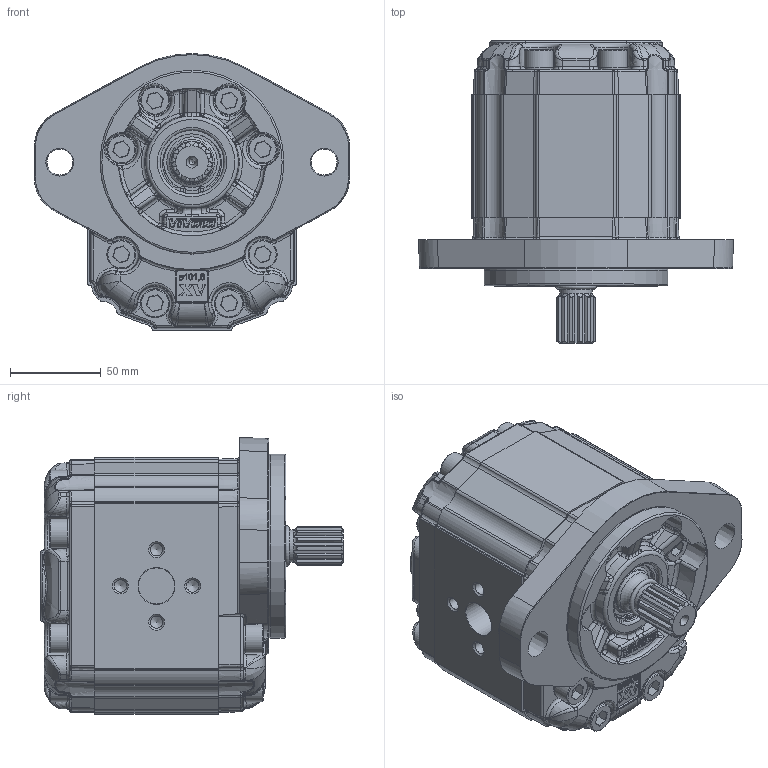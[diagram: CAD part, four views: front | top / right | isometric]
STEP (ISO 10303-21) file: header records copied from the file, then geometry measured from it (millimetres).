
FILE_DESCRIPTION(/* description */ ('Unknown'),/* implementation_level */ '2;1');
FILE_NAME(/* name */ 'X3P6831IAAA',/* time_stamp */ '2021-03-29T11:40:19+02:00',/* author */ ('Unknown'),/* organization */ ('Unknown'),/* preprocessor_version */ 'ST-DEVELOPER v16.7',/* originating_system */ 'Solid Edge',/* authorisation */ 'Unknown');
FILE_SCHEMA (('AUTOMOTIVE_DESIGN {1 0 10303 214 3 1 1}'));
Products named in the file (5): X3P6831IAAA; X3P31; 3I; X3AAH68; XP331-A
Assembly tree (4 placements, depth 2):
  X3P6831IAAA
    X3P31
    3I
    X3AAH68
    XP331-A
Bounding box: 174 x 167.2 x 153 mm (x, y, z)
Volume: 1815562.3 mm3; surface area: 197969.9 mm2
Topology: 4 solids, 21 shells, 3062 faces, 7898 edges, 4993 vertices
Faces by surface type: bspline 1317, plane 876, cylinder 654, cone 105, torus 94, sphere 16
Full cylindrical faces by diameter (mm): 2 x2, 6.8 x8, 10 x16, 15.8 x16, 16 x16, 18 x2, 20 x2, 24.98 x1, 25 x2, 25.968 x1, 28.16 x1, 31.293 x1, 32.742 x1, 34.956 x1, 35 x1, 35.2 x1, 37 x1, 101.6 x1
Entity records: 162906 total; most frequent: CARTESIAN_POINT 82491, ORIENTED_EDGE 15348, EDGE_CURVE 7674, DIRECTION 6756, B_SPLINE_CURVE_WITH_KNOTS 4985, VERTEX_POINT 4932, FACE_BOUND 3354, EDGE_LOOP 3344
